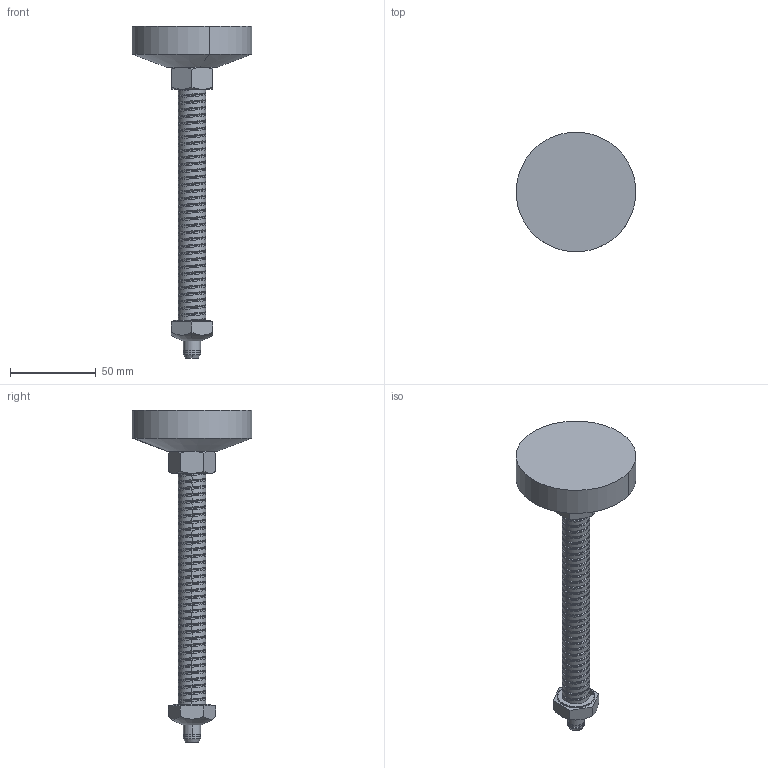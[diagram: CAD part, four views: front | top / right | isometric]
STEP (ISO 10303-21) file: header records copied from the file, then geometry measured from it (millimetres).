
FILE_DESCRIPTION (( 'STEP AP203' ), '1' );
FILE_NAME ('FS-105-2-20-L.-1SLDPRT.STEP', '2015-11-23T02:34:01', ( '' ), ( '' ), 'SwSTEP 2.0', 'SolidWorks 2014', '' );
FILE_SCHEMA (( 'CONFIG_CONTROL_DESIGN' ));
Length unit declared in the file: millimetre
Products named in the file (4): M16螺帽-5; FS-105-2-20-L圓鐵蓋; FS-105-2-20-L.-1SLDPRT; DT-M16X150L-10調整螺絲
Assembly tree (3 placements, depth 2):
  FS-105-2-20-L.-1SLDPRT
    DT-M16X150L-10調整螺絲
    M16螺帽-5
    FS-105-2-20-L圓鐵蓋
Bounding box: 69.88 x 69.88 x 194 mm (x, y, z)
Volume: 116986 mm3; surface area: 28307.2 mm2
Topology: 3 solids, 3 shells, 173 faces, 445 edges, 282 vertices
Faces by surface type: cylinder 97, cone 43, plane 23, bspline 10
Entity records: 17819 total; most frequent: CARTESIAN_POINT 13714, ORIENTED_EDGE 890, DIRECTION 682, EDGE_CURVE 445, VERTEX_POINT 282, AXIS2_PLACEMENT_3D 265, EDGE_LOOP 179, FACE_OUTER_BOUND 173
